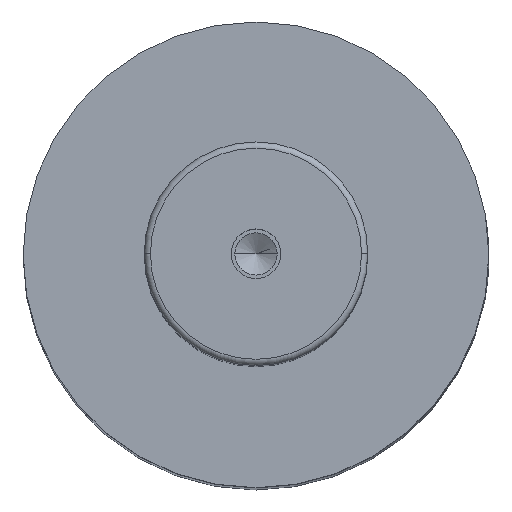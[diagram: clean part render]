
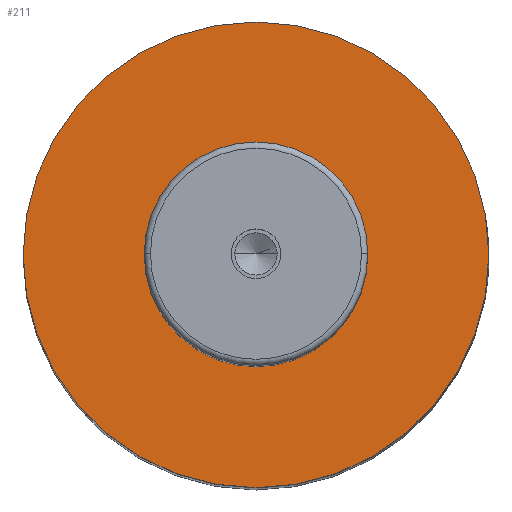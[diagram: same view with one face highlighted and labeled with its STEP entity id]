
A CAD part, top view. The second image highlights one B-rep face of the part: STEP entity #211.
In plain terms, the highlighted planar face has unit normal (0, 0, 1).
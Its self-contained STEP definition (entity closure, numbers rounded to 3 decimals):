
#109=PLANE('',#1266);
#138=FACE_BOUND('',#359,.T.);
#139=FACE_BOUND('',#360,.T.);
#211=ADVANCED_FACE('',(#138,#139),#109,.T.);
#359=EDGE_LOOP('',(#571,#572));
#360=EDGE_LOOP('',(#573,#574));
#451=CIRCLE('',#1260,18.);
#452=CIRCLE('',#1262,18.);
#453=CIRCLE('',#1264,37.5);
#454=CIRCLE('',#1265,37.5);
#571=ORIENTED_EDGE('',*,*,#970,.F.);
#572=ORIENTED_EDGE('',*,*,#971,.F.);
#573=ORIENTED_EDGE('',*,*,#969,.T.);
#574=ORIENTED_EDGE('',*,*,#967,.T.);
#856=VERTEX_POINT('',#1837);
#857=VERTEX_POINT('',#1839);
#858=VERTEX_POINT('',#1845);
#859=VERTEX_POINT('',#1846);
#967=EDGE_CURVE('',#857,#856,#451,.T.);
#969=EDGE_CURVE('',#856,#857,#452,.T.);
#970=EDGE_CURVE('',#858,#859,#453,.T.);
#971=EDGE_CURVE('',#859,#858,#454,.T.);
#1260=AXIS2_PLACEMENT_3D('',#1838,#1456,#1457);
#1262=AXIS2_PLACEMENT_3D('',#1842,#1461,#1462);
#1264=AXIS2_PLACEMENT_3D('',#1844,#1465,#1466);
#1265=AXIS2_PLACEMENT_3D('',#1847,#1467,#1468);
#1266=AXIS2_PLACEMENT_3D('',#1848,#1469,#1470);
#1456=DIRECTION('',(0.,0.,-1.));
#1457=DIRECTION('',(0.,1.,0.));
#1461=DIRECTION('',(0.,0.,-1.));
#1462=DIRECTION('',(0.,-1.,0.));
#1465=DIRECTION('',(0.,0.,-1.));
#1466=DIRECTION('',(0.,1.,0.));
#1467=DIRECTION('',(0.,0.,-1.));
#1468=DIRECTION('',(0.,-1.,0.));
#1469=DIRECTION('',(0.,0.,1.));
#1470=DIRECTION('',(0.,-1.,0.));
#1837=CARTESIAN_POINT('',(-18.,0.,207.));
#1838=CARTESIAN_POINT('',(0.,0.,207.));
#1839=CARTESIAN_POINT('',(18.,0.,207.));
#1842=CARTESIAN_POINT('',(0.,0.,207.));
#1844=CARTESIAN_POINT('',(0.,0.,207.));
#1845=CARTESIAN_POINT('',(37.5,0.,207.));
#1846=CARTESIAN_POINT('',(-37.5,0.,207.));
#1847=CARTESIAN_POINT('',(0.,0.,207.));
#1848=CARTESIAN_POINT('',(0.,0.,207.));
